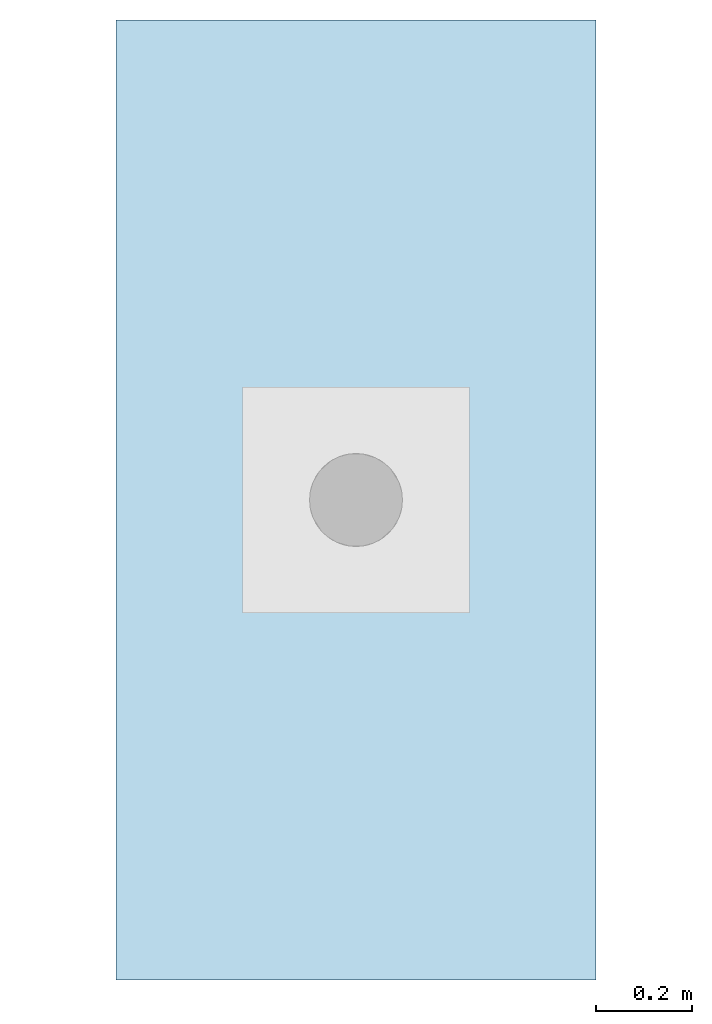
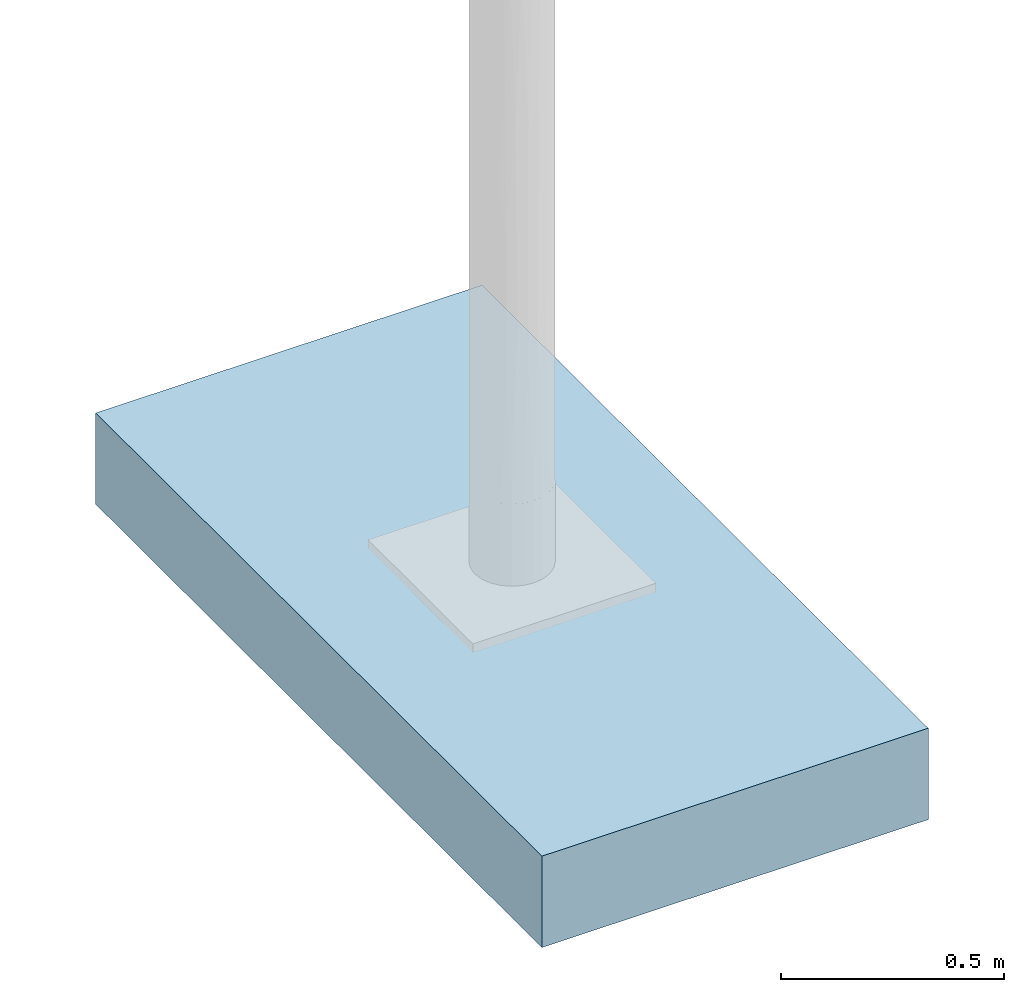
# One storey, incomplete: 1 slab.
"""IFC4 building model written with IfcOpenShell, lengths in metres."""

from ifc_helpers import new_model, entity, si_unit, converted_unit, direction, frame, frame_2d, origin, place, context, subcontext, project, spatial, rectangle, extrude, type_object, element, save


model = new_model("IFC4")

# Units and contexts
model_context = context("Model", 3, precision=1e-05, world=origin(), true_north=direction((6.123031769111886e-17, 1.0)))
body_context = subcontext(model_context, "Body", "Model", "MODEL_VIEW")
ifc_project = project(units=[si_unit("LENGTHUNIT", "METRE"), converted_unit("PLANEANGLEUNIT", "DEGREE", entity("IfcPlaneAngleMeasure", 0.017453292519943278), si_unit("PLANEANGLEUNIT", "RADIAN"), dimensions=[0, 0, 0, 0, 0, 0, 0]), si_unit("AREAUNIT", "SQUARE_METRE")], contexts=[model_context])

# Site, building, storey
site_placement = place(None, origin())
site = spatial("IfcSite", under=ifc_project, at=site_placement, Name="Default", CompositionType="ELEMENT")
building_placement = place(site_placement, origin())
building = spatial("IfcBuilding", under=site, at=building_placement, CompositionType="ELEMENT")
storey_placement = place(building_placement, origin())
storey = spatial("IfcBuildingStorey", under=building, at=storey_placement, Name="Ebene 0", CompositionType="ELEMENT", Elevation=0.0)

# Slab
slab_type = type_object("IfcSlabType", Name="DB_ZIM_Fundament:DB_ZIM_Fundament", PredefinedType="BASESLAB")
slab_placement = place(storey_placement, origin())
element("IfcSlab", 1, at=slab_placement, inside=storey, type_object=slab_type, Name="DB_ZIM_Fundament:DB_ZIM_Fundament", ObjectType="DB_ZIM_Fundament:DB_ZIM_Fundament", PredefinedType="BASESLAB", context=body_context, shape_type="SweptSolid", body=[
    extrude(rectangle(XDim=0.9999999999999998, YDim=2.0, at=frame_2d((0.09999999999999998, 0.0), x_axis=(1.0, 0.0))), frame((-0.09999999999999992, 0.0, -0.49995000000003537)), (0.0, 0.0, 1.0), 0.25),
])

save(model, "model.ifc")
